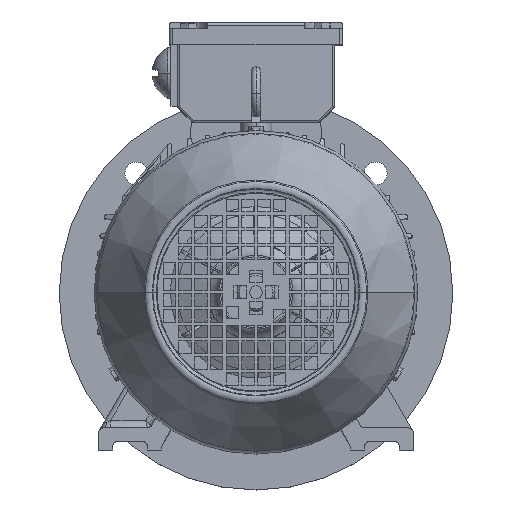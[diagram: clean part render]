
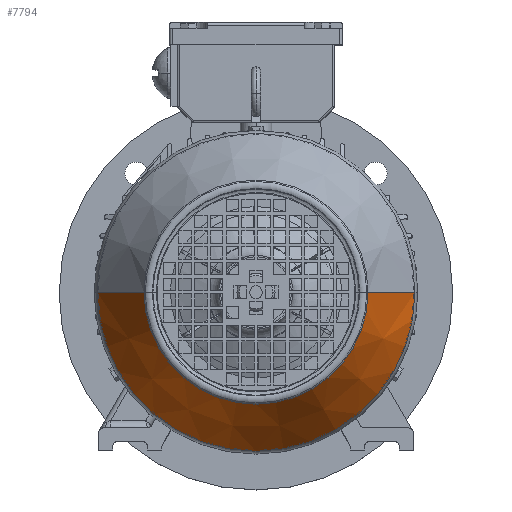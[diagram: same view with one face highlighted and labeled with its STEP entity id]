
A CAD part, top view. The second image highlights one B-rep face of the part: STEP entity #7794.
In plain terms, the highlighted conical face has half-angle 30 degrees and reference radius 100.958 mm.
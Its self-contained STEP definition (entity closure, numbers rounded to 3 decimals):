
#7794 = ADVANCED_FACE ( 'NONE', ( #29508 ), #29521, .T. ) ;
#8913 = DIRECTION ( 'NONE',  ( -1., 0., 0. ) ) ;
#8917 = DIRECTION ( 'NONE',  ( 0., 0., -1. ) ) ;
#8918 = CARTESIAN_POINT ( 'NONE',  ( 0., 0., 150.379 ) ) ;
#10198 = AXIS2_PLACEMENT_3D ( 'NONE', #43962, #43963, #43964 ) ;
#13359 = AXIS2_PLACEMENT_3D ( 'NONE', #8918, #8917, #8913 ) ;
#18031 = CARTESIAN_POINT ( 'NONE',  ( 100.958, 0., 150.379 ) ) ;
#18040 = CARTESIAN_POINT ( 'NONE',  ( -71.155, 0., 202. ) ) ;
#18046 = CARTESIAN_POINT ( 'NONE',  ( 71.155, 0., 202. ) ) ;
#18056 = CARTESIAN_POINT ( 'NONE',  ( -100.958, 0., 150.379 ) ) ;
#20775 = EDGE_LOOP ( 'NONE', ( #36990, #36992, #36994, #36996 ) ) ;
#21550 = EDGE_CURVE ( 'NONE', #37177, #37167, #43154, .T. ) ;
#29508 = FACE_OUTER_BOUND ( 'NONE', #20775, .T. ) ;
#29521 = CONICAL_SURFACE ( 'NONE', #13359, 100.958, 0.524 ) ;
#29556 = EDGE_CURVE ( 'NONE', #37177, #37153, #32653, .T. ) ;
#29559 = EDGE_CURVE ( 'NONE', #37167, #37194, #32656, .T. ) ;
#30933 = EDGE_CURVE ( 'NONE', #37153, #37194, #38374, .T. ) ;
#32653 = LINE ( 'NONE', #33780, #32658 ) ;
#32656 = LINE ( 'NONE', #33779, #32660 ) ;
#32658 = VECTOR ( 'NONE', #33775, 1000. ) ;
#32660 = VECTOR ( 'NONE', #33784, 1000. ) ;
#33775 = DIRECTION ( 'NONE',  ( 0.5, 0., -0.866 ) ) ;
#33779 = CARTESIAN_POINT ( 'NONE',  ( -100.958, 0., 150.379 ) ) ;
#33780 = CARTESIAN_POINT ( 'NONE',  ( 100.958, 0., 150.379 ) ) ;
#33784 = DIRECTION ( 'NONE',  ( -0.5, 0., -0.866 ) ) ;
#36990 = ORIENTED_EDGE ( 'NONE', *, *, #29556, .F. ) ;
#36992 = ORIENTED_EDGE ( 'NONE', *, *, #21550, .T. ) ;
#36994 = ORIENTED_EDGE ( 'NONE', *, *, #29559, .T. ) ;
#36996 = ORIENTED_EDGE ( 'NONE', *, *, #30933, .F. ) ;
#37153 = VERTEX_POINT ( 'NONE', #18031 ) ;
#37167 = VERTEX_POINT ( 'NONE', #18040 ) ;
#37177 = VERTEX_POINT ( 'NONE', #18046 ) ;
#37194 = VERTEX_POINT ( 'NONE', #18056 ) ;
#37625 = AXIS2_PLACEMENT_3D ( 'NONE', #39043, #39044, #39045 ) ;
#38374 = CIRCLE ( 'NONE', #37625, 100.958 ) ;
#39043 = CARTESIAN_POINT ( 'NONE',  ( 0., 0., 150.379 ) ) ;
#39044 = DIRECTION ( 'NONE',  ( 0., 0., -1. ) ) ;
#39045 = DIRECTION ( 'NONE',  ( -1., 0., 0. ) ) ;
#43154 = CIRCLE ( 'NONE', #10198, 71.155 ) ;
#43962 = CARTESIAN_POINT ( 'NONE',  ( 0., 0., 202. ) ) ;
#43963 = DIRECTION ( 'NONE',  ( 0., 0., -1. ) ) ;
#43964 = DIRECTION ( 'NONE',  ( -1., 0., 0. ) ) ;
